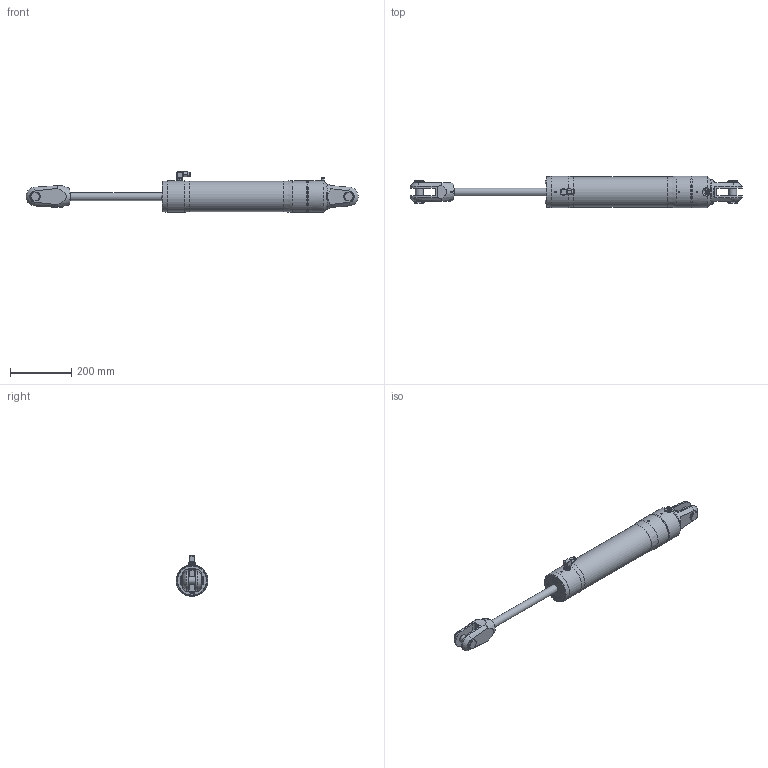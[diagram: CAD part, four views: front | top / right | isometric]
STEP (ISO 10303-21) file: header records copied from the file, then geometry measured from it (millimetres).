
FILE_DESCRIPTION(/* description */ (''),/* implementation_level */ '2;1');
FILE_NAME(/* name */ 'Q:\AA BRAND HYDRAULICS\HYDRAULICS FAMILY DIRECTORY\HYDRAULICS\CYLINDERS\RAMS\STAINLESS - STANDARD SINGLE ACTING (-0006 To -0260)\RSS-0040-S0300-NP-71\RSS-0040-S0300-NP-71 (Open).stp',/* time_stamp */ '2018-02-07T15:35:03+00:00',/* author */ ('Lorena'),/* organization */ (''),/* preprocessor_version */ 'ST-DEVELOPER v17',/* originating_system */ 'Autodesk Inventor 2018',/* authorisation */ '');
FILE_SCHEMA (('AUTOMOTIVE_DESIGN { 1 0 10303 214 3 1 1 }'));
Length unit declared in the file: millimetre
Products named in the file (1): RSS-0040-S0300-NP-71 (Open)
Bounding box: 1086.62 x 104.2 x 134 mm (x, y, z)
Volume: 5105490.1 mm3; surface area: 287325.2 mm2
Topology: 2 solids, 4 shells, 1767 faces, 4760 edges, 3149 vertices
Faces by surface type: plane 997, bspline 574, cone 110, cylinder 78, torus 4, sphere 4
Full cylindrical faces by diameter (mm): 4 x1, 4.134 x1, 5 x3, 5.1 x1, 5.9 x1, 7 x1, 9 x1, 10 x2, 11.157 x1, 11.5 x1, 11.8 x1, 12 x1, 12.157 x1, 12.77 x1, 13 x1, 13.157 x2, 14.5 x2, 16 x2, 18.3 x3, 22 x1, 25.4 x2, 26 x1, 28 x1, 31.75 x2, 97.6 x1, 99.2 x1, 102.2 x1, 103.2 x1, 104.2 x2
Entity records: 63458 total; most frequent: CARTESIAN_POINT 21388, ORIENTED_EDGE 9506, DIRECTION 6220, EDGE_CURVE 4753, VERTEX_POINT 3151, LINE 2954, VECTOR 2954, EDGE_LOOP 1932
